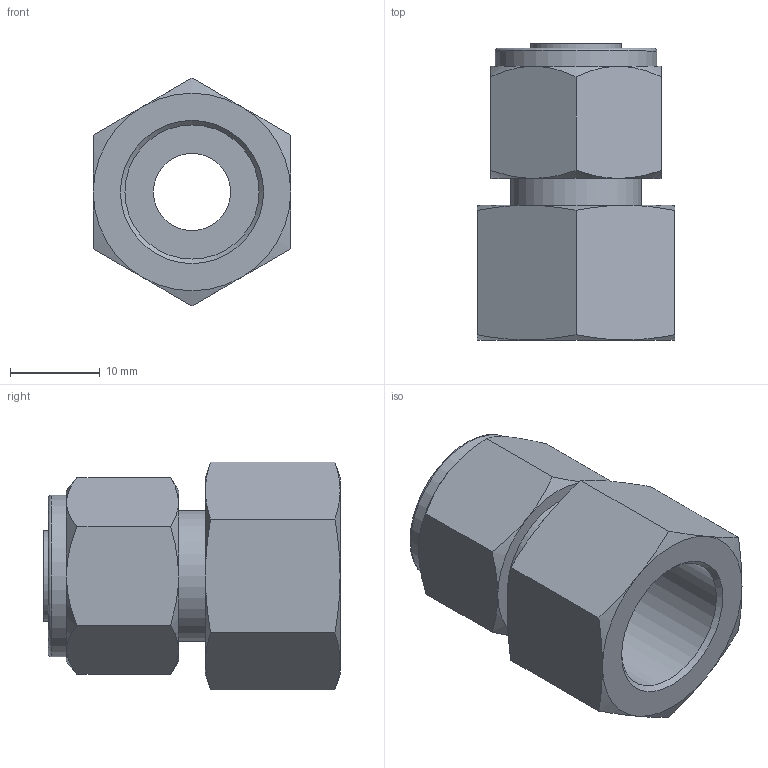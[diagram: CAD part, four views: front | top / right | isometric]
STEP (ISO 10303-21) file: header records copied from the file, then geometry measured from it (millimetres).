
FILE_DESCRIPTION(/* description */ (''),/* implementation_level */ '2;1');
FILE_NAME(/* name */ 'CXH14 1210 B3.stp',/* time_stamp */ '2025-01-12T15:01:21+01:00',/* author */ ('freju'),/* organization */ (''),/* preprocessor_version */ 'ST-DEVELOPER v20',/* originating_system */ 'Autodesk Inventor 2025',/* authorisation */ '');
FILE_SCHEMA (('AUTOMOTIVE_DESIGN { 1 0 10303 214 3 1 1 }'));
Length unit declared in the file: millimetre
Products named in the file (3): CXH14 1210 B3; CH19; CXH14 1210 B3_1
Assembly tree (2 placements, depth 2):
  CXH14 1210 B3
    CH19
    CXH14 1210 B3_1
Bounding box: 22 x 33 x 25.4 mm (x, y, z)
Volume: 7637.2 mm3; surface area: 5526.6 mm2
Topology: 2 solids, 2 shells, 59 faces, 124 edges, 75 vertices
Faces by surface type: cone 29, plane 21, cylinder 8, torus 1
Full cylindrical faces by diameter (mm): 8.6 x1, 10.1 x1, 11.1 x1, 12 x1, 14.6 x1, 14.917 x1, 14.95 x1, 18 x1
Entity records: 1639 total; most frequent: CARTESIAN_POINT 359, DIRECTION 255, ORIENTED_EDGE 248, EDGE_CURVE 124, AXIS2_PLACEMENT_3D 115, VERTEX_POINT 74, EDGE_LOOP 68, FACE_OUTER_BOUND 59
